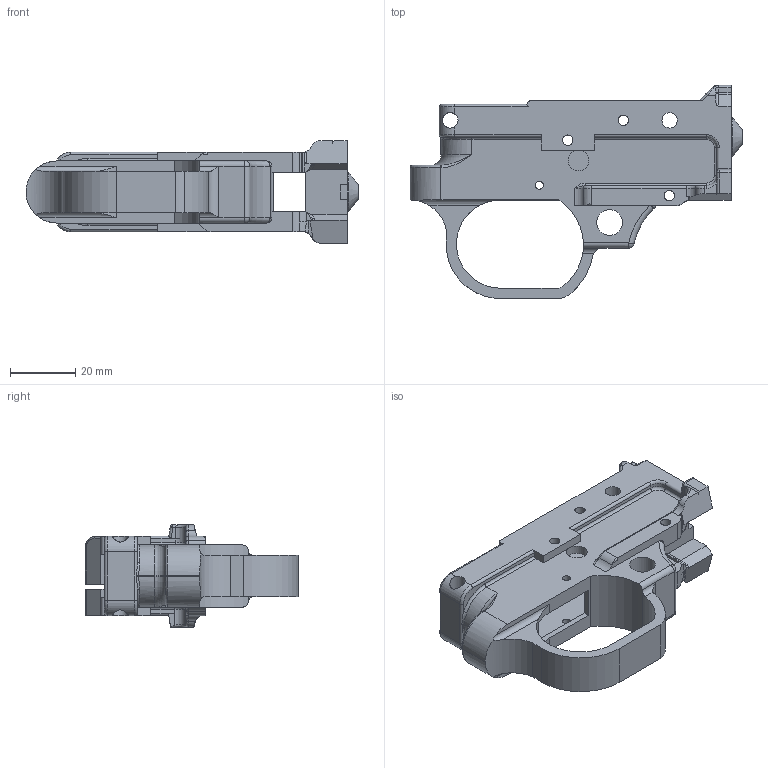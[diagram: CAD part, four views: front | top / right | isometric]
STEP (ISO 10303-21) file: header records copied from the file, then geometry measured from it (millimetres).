
FILE_DESCRIPTION((''),'2;1');
FILE_NAME('H:\PROJECTS\PERS.PROJECTS\Gray Area\10-22\Trigger Housing Assy\Trigger Housing.stp','2011-10-06T13:13:24',('Bob'),(''),'Autodesk Inventor 2011','Autodesk Inventor 2011','');
FILE_SCHEMA(('AUTOMOTIVE_DESIGN { 1 0 10303 214 1 1 1 1 }'));
Length unit declared in the file: inch
Products named in the file (1): Trigger Housing
Bounding box: 102.03 x 65.49 x 31.6 mm (x, y, z)
Volume: 39981.1 mm3; surface area: 20858.7 mm2
Topology: 1 solids, 1 shells, 246 faces, 687 edges, 426 vertices
Faces by surface type: cylinder 100, plane 91, torus 29, bspline 19, sphere 6, cone 1
Full cylindrical faces by diameter (mm): 2.438 x2, 3.175 x6, 3.759 x1, 4.763 x3, 6.35 x1, 7.938 x1, 12.192 x1
Entity records: 8547 total; most frequent: CARTESIAN_POINT 2305, ORIENTED_EDGE 1312, DIRECTION 1286, EDGE_CURVE 656, AXIS2_PLACEMENT_3D 475, VERTEX_POINT 419, VECTOR 336, LINE 336
